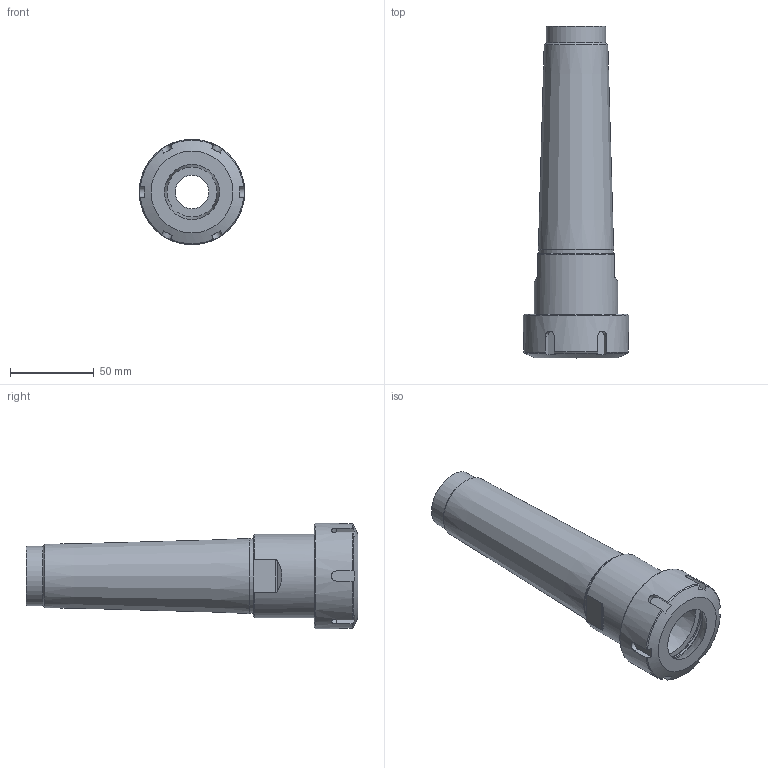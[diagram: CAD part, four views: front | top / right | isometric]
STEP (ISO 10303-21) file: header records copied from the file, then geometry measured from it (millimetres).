
FILE_DESCRIPTION(/* description */ (''),/* implementation_level */ '2;1');
FILE_NAME(/* name */ 'X:\Проектный отдел\Слава\STEP\MTB5-ER40 M20.stp',/* time_stamp */ '2022-02-09T11:03:11+03:00',/* author */ ('Евгений'),/* organization */ (''),/* preprocessor_version */ 'ST-DEVELOPER v18',/* originating_system */ 'Autodesk Inventor 2020',/* authorisation */ '');
FILE_SCHEMA (('AUTOMOTIVE_DESIGN { 1 0 10303 214 3 1 1 }'));
Length unit declared in the file: millimetre
Products named in the file (3): MTB5-ER40 M20; MTB5-ER40 M20_1; MTB5-ER40 M20_nut
Assembly tree (2 placements, depth 2):
  MTB5-ER40 M20
    MTB5-ER40 M20_1
    MTB5-ER40 M20_nut
Bounding box: 63 x 198.49 x 63 mm (x, y, z)
Volume: 230348.4 mm3; surface area: 54049.8 mm2
Topology: 2 solids, 2 shells, 65 faces, 181 edges, 125 vertices
Faces by surface type: plane 31, cone 18, cylinder 15, torus 1
Full cylindrical faces by diameter (mm): 20 x1, 30.505 x1, 35.5 x1, 40 x1, 50 x2, 63 x1
Entity records: 2391 total; most frequent: CARTESIAN_POINT 585, ORIENTED_EDGE 362, DIRECTION 347, EDGE_CURVE 181, AXIS2_PLACEMENT_3D 142, VERTEX_POINT 125, EDGE_LOOP 74, CIRCLE 69
